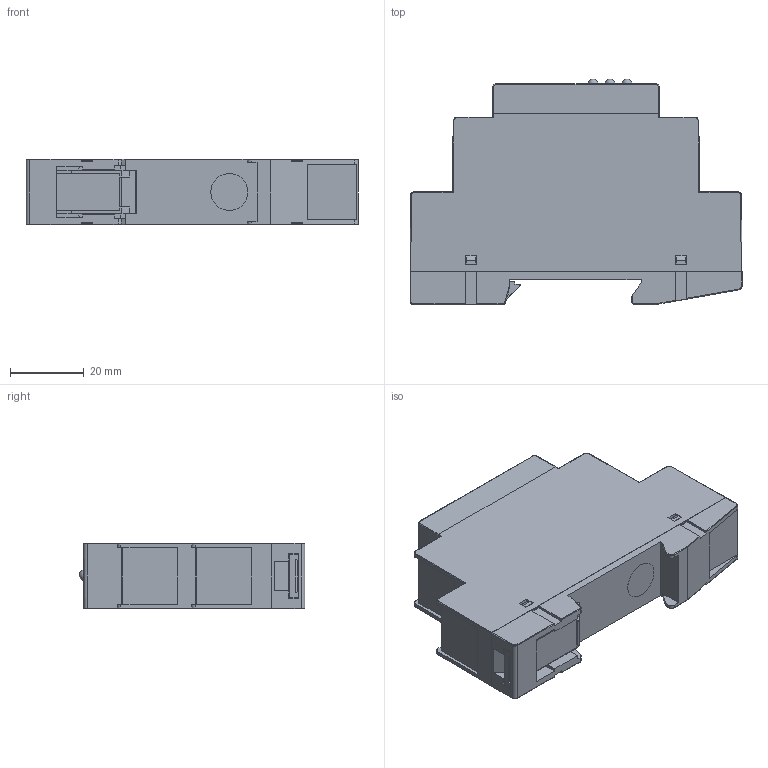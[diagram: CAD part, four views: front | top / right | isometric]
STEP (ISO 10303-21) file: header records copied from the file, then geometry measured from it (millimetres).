
FILE_DESCRIPTION(/* description */ (''),/* implementation_level */ '2;1');
FILE_NAME(/* name */ 'KNX_USB_Interface_312_1.stp',/* time_stamp */ '2025-10-29T11:33:39+01:00',/* author */ (''),/* organization */ (''),/* preprocessor_version */ 'ST-DEVELOPER v17.2',/* originating_system */ 'Autodesk Inventor 2019',/* authorisation */ '');
FILE_SCHEMA (('AUTOMOTIVE_DESIGN { 1 0 10303 214 3 1 1 }'));
Length unit declared in the file: millimetre
Products named in the file (1): KNX_USB_Interface_312_1
Bounding box: 89.8 x 61.01 x 17.8 mm (x, y, z)
Volume: 71431.9 mm3; surface area: 16694.2 mm2
Topology: 1 solids, 1 shells, 923 faces, 2476 edges, 1577 vertices
Faces by surface type: plane 612, cylinder 236, cone 32, torus 20, sphere 17, bspline 6
Full cylindrical faces by diameter (mm): 1 x2, 1.1 x2, 3 x3, 3.1 x3, 10 x1
Entity records: 29626 total; most frequent: CARTESIAN_POINT 5243, ORIENTED_EDGE 4930, DIRECTION 4802, EDGE_CURVE 2465, LINE 1906, VECTOR 1906, VERTEX_POINT 1577, AXIS2_PLACEMENT_3D 1448
